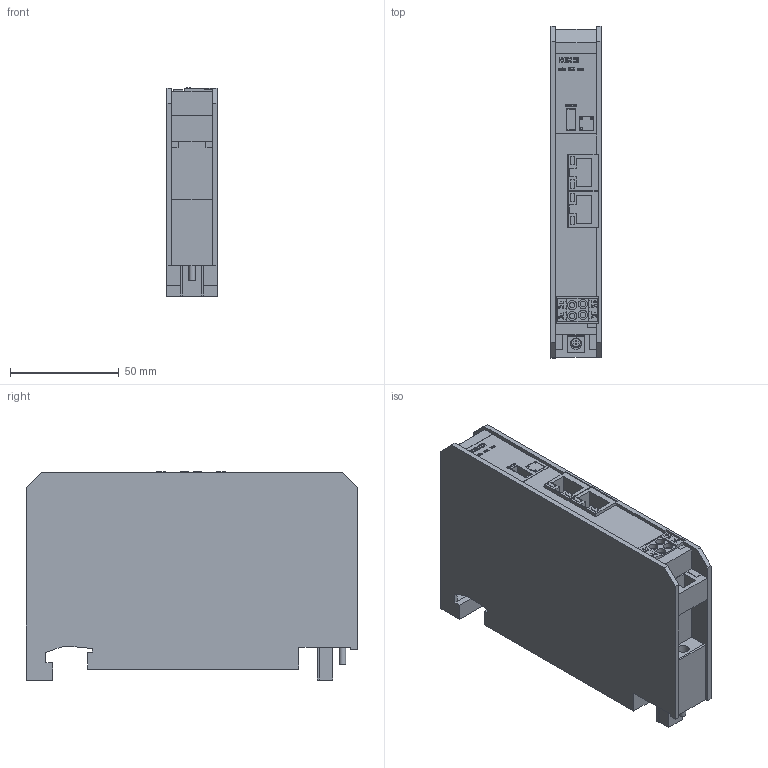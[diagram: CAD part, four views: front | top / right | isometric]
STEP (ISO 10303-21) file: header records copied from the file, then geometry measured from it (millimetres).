
FILE_DESCRIPTION(/* description */ ('This is a sample STEP configuration'),/* implementation_level */ '2;1');
FILE_NAME(/* name */ 'C:\Job_Work\00032353.ipt\00032353_001.stp',/* time_stamp */ '2025-04-10T16:18:10+02:00',/* author */ ('powerJobs'),/* organization */ ('coolOrange'),/* preprocessor_version */ 'ST-DEVELOPER v18.1',/* originating_system */ 'Autodesk Inventor 2022',/* authorisation */ '-');
FILE_SCHEMA (('AUTOMOTIVE_DESIGN { 1 0 10303 214 3 1 1 }'));
Length unit declared in the file: millimetre
Products named in the file (1): 00032353
Bounding box: 23.1 x 152.5 x 95.87 mm (x, y, z)
Volume: 287045.8 mm3; surface area: 57914.1 mm2
Topology: 10 solids, 10 shells, 888 faces, 2275 edges, 1516 vertices
Faces by surface type: plane 641, bspline 192, cylinder 54, torus 1
Full cylindrical faces by diameter (mm): 0.4 x38, 2.5 x4, 3 x2, 4.23 x4, 5 x1, 5.3 x1
Entity records: 27992 total; most frequent: CARTESIAN_POINT 6546, ORIENTED_EDGE 4550, DIRECTION 3397, EDGE_CURVE 2275, LINE 1777, VECTOR 1777, VERTEX_POINT 1516, EDGE_LOOP 1003
